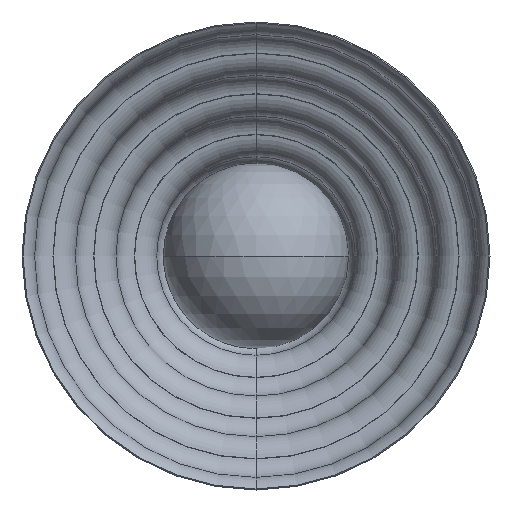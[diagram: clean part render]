
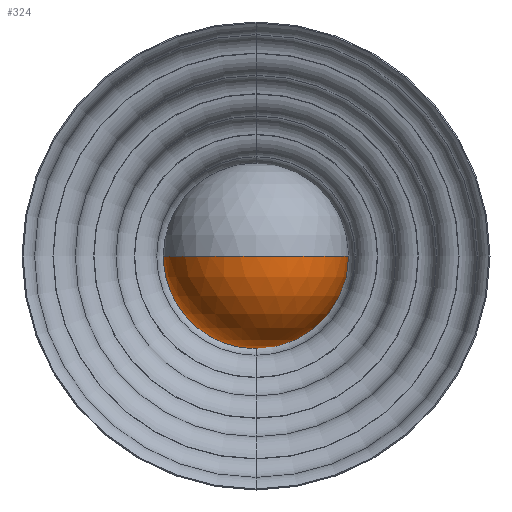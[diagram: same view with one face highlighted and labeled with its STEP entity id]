
A CAD part, front view. The second image highlights one B-rep face of the part: STEP entity #324.
In plain terms, the highlighted spherical face has radius 70 mm.
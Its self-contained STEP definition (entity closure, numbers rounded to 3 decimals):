
#36 = ORIENTED_EDGE ( 'NONE', *, *, #834, .T. ) ;
#88 = EDGE_CURVE ( 'NONE', #1150, #1331, #1228, .T. ) ;
#145 = VERTEX_POINT ( 'NONE', #1748 ) ;
#256 = CIRCLE ( 'NONE', #877, 70. ) ;
#324 = ADVANCED_FACE ( 'NONE', ( #547 ), #955, .T. ) ;
#357 = DIRECTION ( 'NONE',  ( 1., 0., 0. ) ) ;
#365 = ORIENTED_EDGE ( 'NONE', *, *, #1385, .F. ) ;
#449 = ORIENTED_EDGE ( 'NONE', *, *, #1071, .F. ) ;
#479 = EDGE_LOOP ( 'NONE', ( #365, #36, #449, #559 ) ) ;
#502 = DIRECTION ( 'NONE',  ( 0., 0., 1. ) ) ;
#518 = AXIS2_PLACEMENT_3D ( 'NONE', #1779, #521, #778 ) ;
#521 = DIRECTION ( 'NONE',  ( 0., 1., 0. ) ) ;
#547 = FACE_OUTER_BOUND ( 'NONE', #479, .T. ) ;
#559 = ORIENTED_EDGE ( 'NONE', *, *, #88, .F. ) ;
#603 = CIRCLE ( 'NONE', #722, 70. ) ;
#722 = AXIS2_PLACEMENT_3D ( 'NONE', #1709, #1736, #1447 ) ;
#778 = DIRECTION ( 'NONE',  ( 0., 0., 1. ) ) ;
#834 = EDGE_CURVE ( 'NONE', #1775, #145, #603, .T. ) ;
#877 = AXIS2_PLACEMENT_3D ( 'NONE', #921, #1625, #357 ) ;
#921 = CARTESIAN_POINT ( 'NONE',  ( 0., -110.021, 0. ) ) ;
#949 = CARTESIAN_POINT ( 'NONE',  ( 20., -42.939, 0. ) ) ;
#955 = SPHERICAL_SURFACE ( 'NONE', #1502, 70. ) ;
#1071 = EDGE_CURVE ( 'NONE', #1331, #145, #1138, .T. ) ;
#1117 = DIRECTION ( 'NONE',  ( 0., 0., 1. ) ) ;
#1138 = CIRCLE ( 'NONE', #1645, 20. ) ;
#1150 = VERTEX_POINT ( 'NONE', #949 ) ;
#1206 = CARTESIAN_POINT ( 'NONE',  ( 0., -42.939, 0. ) ) ;
#1228 = CIRCLE ( 'NONE', #518, 20. ) ;
#1240 = DIRECTION ( 'NONE',  ( -1., 0., 0. ) ) ;
#1331 = VERTEX_POINT ( 'NONE', #1562 ) ;
#1385 = EDGE_CURVE ( 'NONE', #1775, #1150, #256, .T. ) ;
#1447 = DIRECTION ( 'NONE',  ( -1., 0., 0. ) ) ;
#1502 = AXIS2_PLACEMENT_3D ( 'NONE', #1521, #1117, #1240 ) ;
#1521 = CARTESIAN_POINT ( 'NONE',  ( 0., -110.021, 0. ) ) ;
#1562 = CARTESIAN_POINT ( 'NONE',  ( 0., -42.939, -20. ) ) ;
#1625 = DIRECTION ( 'NONE',  ( 0., 0., 1. ) ) ;
#1645 = AXIS2_PLACEMENT_3D ( 'NONE', #1206, #1769, #502 ) ;
#1709 = CARTESIAN_POINT ( 'NONE',  ( 0., -110.021, 0. ) ) ;
#1732 = CARTESIAN_POINT ( 'NONE',  ( 0., -180.021, 0. ) ) ;
#1736 = DIRECTION ( 'NONE',  ( 0., 0., -1. ) ) ;
#1748 = CARTESIAN_POINT ( 'NONE',  ( -20., -42.939, 0. ) ) ;
#1769 = DIRECTION ( 'NONE',  ( 0., 1., 0. ) ) ;
#1775 = VERTEX_POINT ( 'NONE', #1732 ) ;
#1779 = CARTESIAN_POINT ( 'NONE',  ( 0., -42.939, 0. ) ) ;
